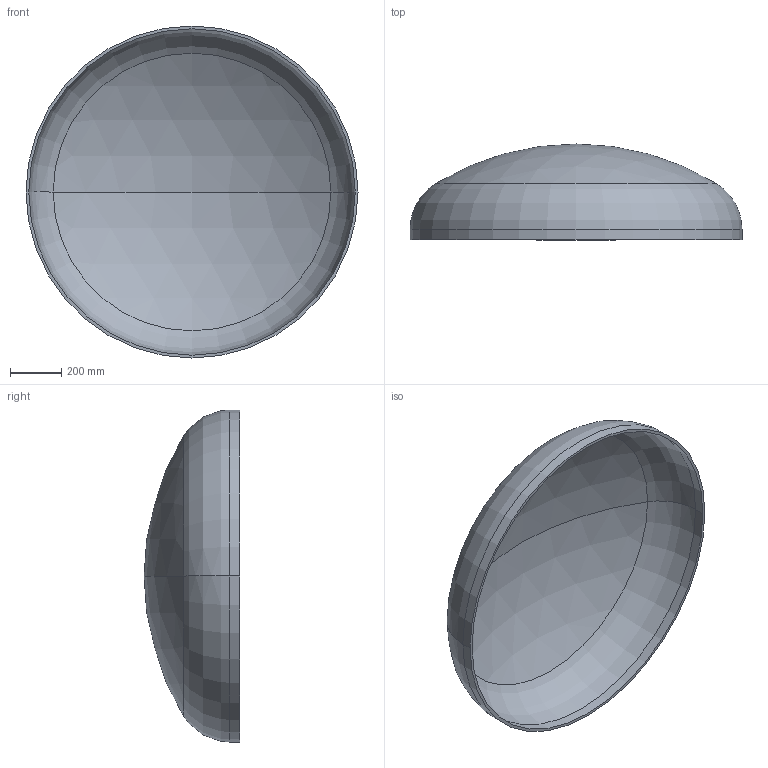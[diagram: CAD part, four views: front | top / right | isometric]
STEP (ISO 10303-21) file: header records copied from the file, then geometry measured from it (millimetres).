
FILE_DESCRIPTION (( 'STEP AP203' ), '1' );
FILE_NAME ('DIN 28013 Korbbogenform_-_Boden DIN 28013 - 1300 x 40 - I - s=11.step', '2016-07-01T09:42:53', ( '' ), ( '' ), 'SwSTEP 2.0', 'SolidWorks 2013', '' );
FILE_SCHEMA (( 'CONFIG_CONTROL_DESIGN' ));
Length unit declared in the file: millimetre
Products named in the file (1): DIN 28013 Korbbogenform_-_Boden DIN 28013 - 1300 x 40 - I - s=11
Bounding box: 1300 x 374.84 x 1300 mm (x, y, z)
Volume: 21774501.5 mm3; surface area: 4003796.9 mm2
Topology: 1 solids, 1 shells, 13 faces, 24 edges, 14 vertices
Faces by surface type: torus 4, cylinder 4, sphere 4, plane 1
Entity records: 407 total; most frequent: DIRECTION 72, CARTESIAN_POINT 52, ORIENTED_EDGE 48, AXIS2_PLACEMENT_3D 34, EDGE_CURVE 24, CIRCLE 20, EDGE_LOOP 14, VERTEX_POINT 14
